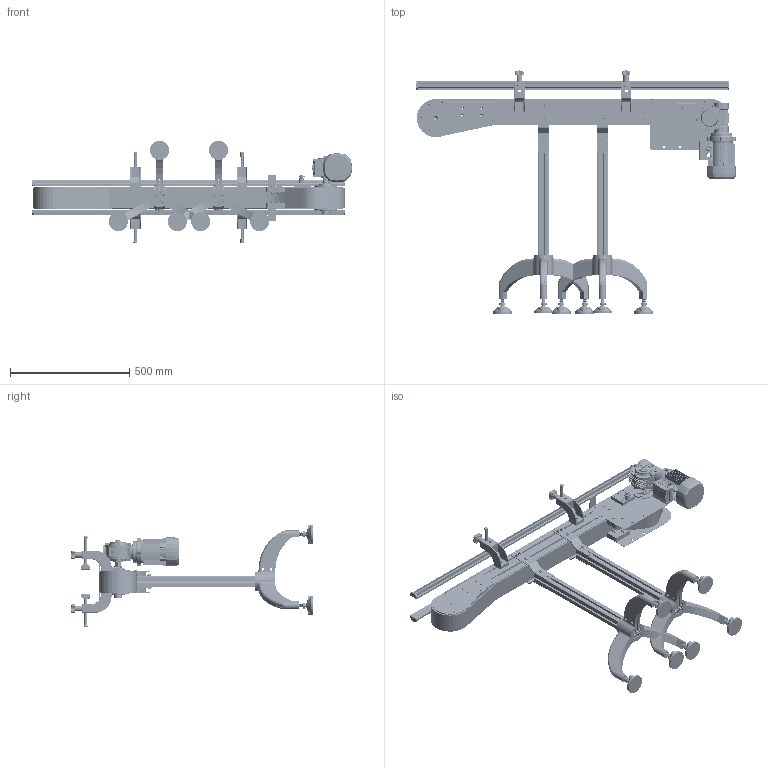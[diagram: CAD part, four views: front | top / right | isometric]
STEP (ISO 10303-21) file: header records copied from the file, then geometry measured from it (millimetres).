
FILE_DESCRIPTION (( 'STEP AP203' ), '1' );
FILE_NAME ('NASTRO_CATENA.step', '2026-05-29T11:09:09', ( 'Utente Windows' ), ( '' ), 'SwSTEP 2.0', 'SolidWorks 2024', '' );
FILE_SCHEMA (( 'CONFIG_CONTROL_DESIGN' ));
Length unit declared in the file: millimetre
Products named in the file (64): GRANI A PUNTA CONICA UNI 5927_M8x16 UNI 5927; 2000.001.006-2; 2000.001.201-3; NASTRO_CATENA; RONDELLE FASCIA LARGA UNI 6593 INOX_8.4x32 UNI 6593 INOX; SPONDA_DIRITTO_Default<A macchina>; 2000.001.202-3; VITI TCEI UNI 5931 INOX_M6x30 UNI 5931 INOX; 2000.001.003-3; VITI TSEI UNI 5933 INOX_0410UNI5933A2; VITI TE UNI 5739 INOX_M8x20 UNI 5739 INOX; 084.712.002; K325_1_Default<A macchina>; 2000.325.001_Default<Lavorato>; 084.312.006; GRANI A PUNTA PIATTA UNI 5923_M8x20 UNI 5923; 084.802.027; 2000.001.001; 2000.325.105-2; 0630UNI8735; RONDELLE UNI 6592_8.4x17 UNI 6592; 2000.325.205-4; 2000.001.011; FLANGIA_GAMBE_KP325; RONDELLE FASCIA LARGA UNI 6593 INOX_8.4x24 UNI 6593 INOX; 2000.001.213; SUPPORTO_SPONDA; 084.201.012-1; 084.302.000 DADI ALUSIC 13x13-1_084.302.004; GAMBE_KP325_Default<A macchina>; 2000.325.201-1S; CHIAVETTE_A 8x7x50 UNI 6604-69; 084.302.016; K325_R_P; VITI TE UNI 5739 INOX_M6x30 UNI 5739 INOX; 084.408.001; 084.711.005; PROFILO POLIZENE_209<A macchina>; 084.711.002; CHIAVETTE_A 8x7x70 UNI 6604-69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
Assembly tree (137 placements, depth 4):
  NASTRO_CATENA
    K325_1_Default<A macchina>
    K325_DIR_49_P_DX_MOTORE A DESTRA
      084.802.027
      2000.001.006-2  x2
      2000.325.003  x2
      2000.325.103
      2000.001.001  x2
      2000.325.001_Default<Lavorato>  x2
      084.808.004
      2000.325.104-2
      2000.001.004-3
      2000.001.011
      2000.325.105-2
      2000.001.003-3
      CHIAVETTE_A 8x7x70 UNI 6604-69
      CHIAVETTE_A 8x7x50 UNI 6604-69
      SBPF205  x2
      663151_NS880T12R25
      VITI TSEI UNI 5933 INOX_0410UNI5933A2  x8
      GRANI A PUNTA CONICA UNI 5927_M8x16 UNI 5927  x8
      VITI TCEI UNI 5931 INOX_M6x30 UNI 5931 INOX  x2
      VITI TE UNI 5739 INOX_M8x20 UNI 5739 INOX
      RONDELLE FASCIA LARGA UNI 6593 INOX_8.4x32 UNI 6593 INOX
      GRANI A PUNTA PIATTA UNI 5923_M8x20 UNI 5923
      RONDELLE FASCIA LARGA UNI 6593 INOX_8.4x24 UNI 6593 INOX
      VITI TE UNI 5739 INOX_M8x16 UNI 5739 INOX  x7
      DADI ESAGONALI AUTOBLOCCANTI UNI 7473 INOX_M6 UNI 7473 INOX  x4
      084.312.006  x6
      PU008.012.025N
      VITI TE UNI 5739 INOX_M6x30 UNI 5739 INOX  x4
      VITI TE UNI 5739 INOX_M6x20 UNI 5739 INOX  x6
    K325_R_P
      2000.001.201-3
      2000.001.202-3
      PROFILO POLIZENE_209<A macchina>  x2
      2000.325.201-1S
      2000.325.205-4
      2000.325.204-4
      2000.001.002  x2
      2000.001.001  x2
      2000.325.001_Default<Lavorato>  x2
      2000.001.213
        2000.001.212  x2
        0630UNI8735  x2
    GAMBE_KP325_Default<A macchina>  x2
    FLANGIA_GAMBE_KP325  x4
      2000.325.620
      084.302.016
      084.301.000 VITI ALUSIC_084.301.002
      084.302.000 DADI ALUSIC 13x13-1_084.302.004
      RONDELLE UNI 6592_8.4x17 UNI 6592
    TRIPIEDE_GAMBE_KP325  x2
      084.402.004
      084.408.001
    084.201.012-1  x2
    SPONDA_DIRITTO_Default<A macchina>
    SUPPORTO_SPONDA  x4
      084.711.004
      084.711.002
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Bounding box: 1340.3 x 1017.82 x 429.56 mm (x, y, z)
Volume: 14588378.3 mm3; surface area: 5026909.3 mm2
Topology: 193 solids, 202 shells, 9151 faces, 22063 edges, 13340 vertices
Faces by surface type: cylinder 3244, plane 3037, cone 1783, bspline 588, torus 475, sphere 24
Entity records: 163422 total; most frequent: CARTESIAN_POINT 50194, DIRECTION 22264, ORIENTED_EDGE 21728, EDGE_CURVE 10875, AXIS2_PLACEMENT_3D 8414, VERTEX_POINT 6727, LINE 5436, VECTOR 5436
